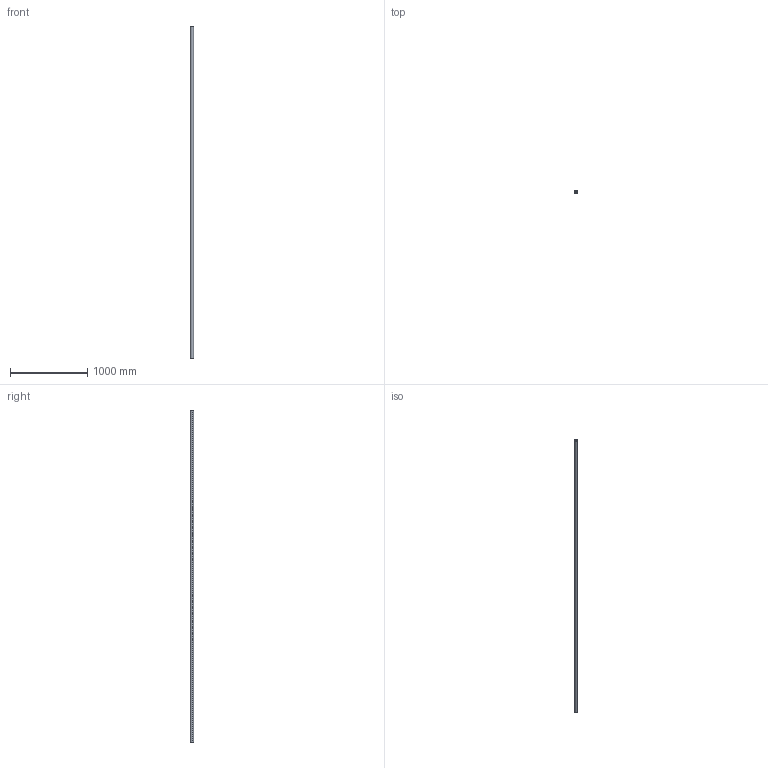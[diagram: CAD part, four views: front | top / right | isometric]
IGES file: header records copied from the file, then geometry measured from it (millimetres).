
Start section: SolidWorks IGES file using analytic representation for surfaces
Global section: file name: C:\Users\IanO\Desktop\L1771_v2\L1771.40_v2\L1771.40_v2_20230705_IGES\L1771.40-4300.igs; native system: SolidWorks 2019; preprocessor: SolidWorks 2019; author: IanO; date: 230705.162428; units: millimetre
Bounding box: 40 x 40 x 4300 mm (x, y, z)
Surface area: 919883.5 mm2 (no closed solid volume)
Topology: 0 solids, 0 shells, 6 faces, 272 edges, 272 vertices
Faces by surface type: revolution 4, bspline 2
